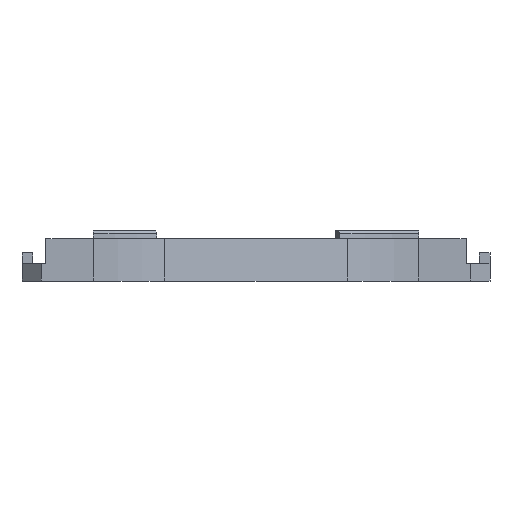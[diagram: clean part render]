
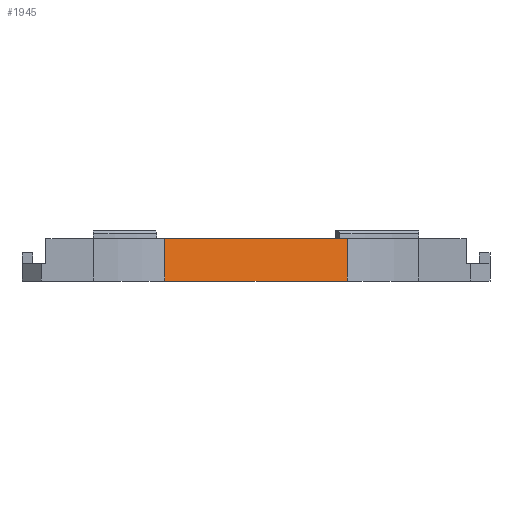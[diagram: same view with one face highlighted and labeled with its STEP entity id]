
A CAD part, left-side view. The second image highlights one B-rep face of the part: STEP entity #1945.
In plain terms, the highlighted planar face has unit normal (-0.9, -0.435, 0).
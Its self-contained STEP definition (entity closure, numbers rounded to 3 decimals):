
#1671=CARTESIAN_POINT('Vertex',(-12.722,-8.406,0.)) ;
#1674=CARTESIAN_POINT('Line Origine',(-16.788,0.,0.)) ;
#1678=CARTESIAN_POINT('Vertex',(-20.853,8.406,0.)) ;
#1774=CARTESIAN_POINT('Vertex',(-20.853,8.406,3.9)) ;
#1777=CARTESIAN_POINT('Line Origine',(-20.853,8.406,1.95)) ;
#1789=CARTESIAN_POINT('Line Origine',(-16.788,0.,3.9)) ;
#1793=CARTESIAN_POINT('Vertex',(-12.722,-8.406,3.9)) ;
#1857=CARTESIAN_POINT('Line Origine',(-12.722,-8.406,1.95)) ;
#1934=CARTESIAN_POINT('Axis2P3D Location',(-22.35,11.5,0.)) ;
#1675=DIRECTION('Vector Direction',(0.435,-0.9,0.)) ;
#1778=DIRECTION('Vector Direction',(0.,0.,1.)) ;
#1790=DIRECTION('Vector Direction',(0.435,-0.9,0.)) ;
#1858=DIRECTION('Vector Direction',(0.,0.,1.)) ;
#1935=DIRECTION('Axis2P3D Direction',(-0.9,-0.435,0.)) ;
#1936=DIRECTION('Axis2P3D XDirection',(0.435,-0.9,0.)) ;
#1937=AXIS2_PLACEMENT_3D('Plane Axis2P3D',#1934,#1935,#1936) ;
#1940=ORIENTED_EDGE('',*,*,#1795,.F.) ;
#1941=ORIENTED_EDGE('',*,*,#1781,.F.) ;
#1942=ORIENTED_EDGE('',*,*,#1680,.T.) ;
#1943=ORIENTED_EDGE('',*,*,#1861,.F.) ;
#1676=VECTOR('Line Direction',#1675,1.) ;
#1779=VECTOR('Line Direction',#1778,1.) ;
#1791=VECTOR('Line Direction',#1790,1.) ;
#1859=VECTOR('Line Direction',#1858,1.) ;
#1945=ADVANCED_FACE('PartBody',(#1944),#1938,.T.) ;
#1680=EDGE_CURVE('',#1679,#1672,#1677,.T.) ;
#1781=EDGE_CURVE('',#1679,#1775,#1780,.T.) ;
#1795=EDGE_CURVE('',#1775,#1794,#1792,.T.) ;
#1861=EDGE_CURVE('',#1794,#1672,#1860,.F.) ;
#1939=EDGE_LOOP('',(#1940,#1941,#1942,#1943)) ;
#1944=FACE_OUTER_BOUND('',#1939,.T.) ;
#1677=LINE('Line',#1674,#1676) ;
#1780=LINE('Line',#1777,#1779) ;
#1792=LINE('Line',#1789,#1791) ;
#1860=LINE('Line',#1857,#1859) ;
#1938=PLANE('Plane',#1937) ;
#1672=VERTEX_POINT('',#1671) ;
#1679=VERTEX_POINT('',#1678) ;
#1775=VERTEX_POINT('',#1774) ;
#1794=VERTEX_POINT('',#1793) ;
